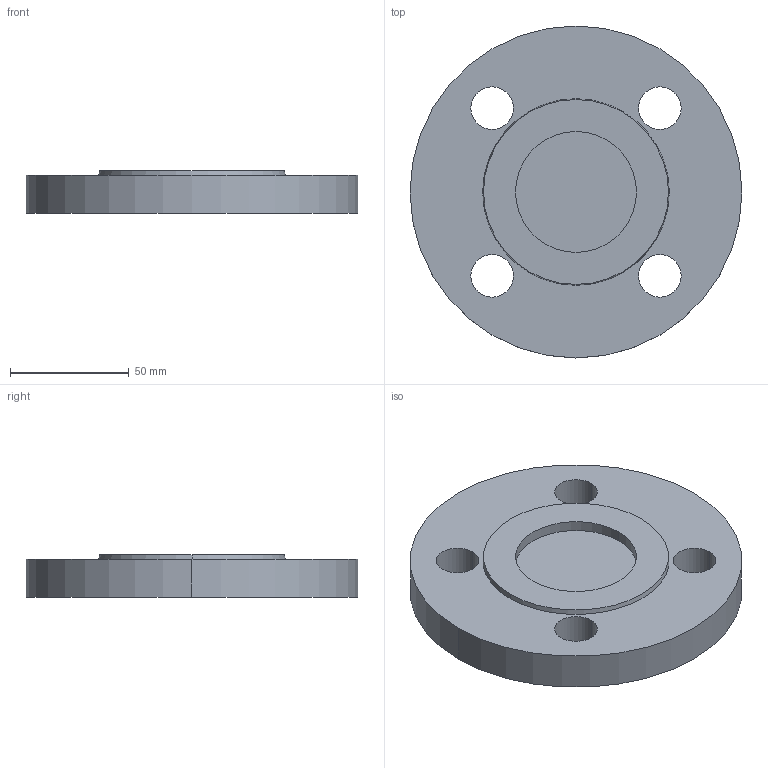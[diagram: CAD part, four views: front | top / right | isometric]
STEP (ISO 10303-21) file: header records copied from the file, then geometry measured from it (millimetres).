
FILE_DESCRIPTION (( 'STEP AP214' ), '1' );
FILE_NAME ('PN40 DN32 Type 05 - Type G Face.STEP', '2018-12-30T00:01:35', ( '' ), ( '' ), 'SwSTEP 2.0', 'SolidWorks 2019', '' );
FILE_SCHEMA (( 'AUTOMOTIVE_DESIGN' ));
Length unit declared in the file: millimetre
Products named in the file (1): PN40 DN32 Type 05 - Type G Face
Bounding box: 140 x 140 x 18 mm (x, y, z)
Volume: 230465.6 mm3; surface area: 40542.2 mm2
Topology: 1 solids, 1 shells, 18 faces, 42 edges, 28 vertices
Faces by surface type: cylinder 12, plane 4, cone 2
Entity records: 584 total; most frequent: DIRECTION 108, CARTESIAN_POINT 89, ORIENTED_EDGE 84, AXIS2_PLACEMENT_3D 47, EDGE_CURVE 42, VERTEX_POINT 28, CIRCLE 28, EDGE_LOOP 28
